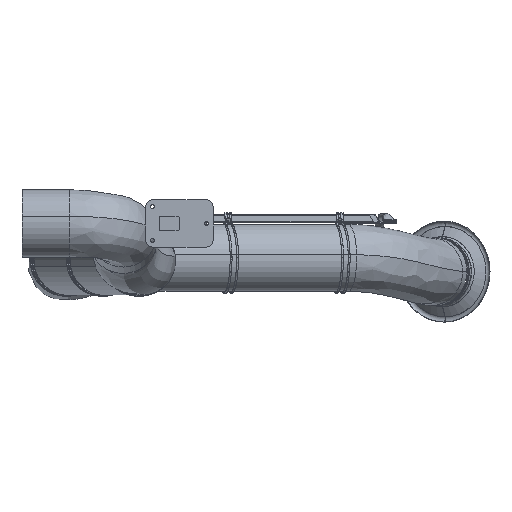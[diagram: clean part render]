
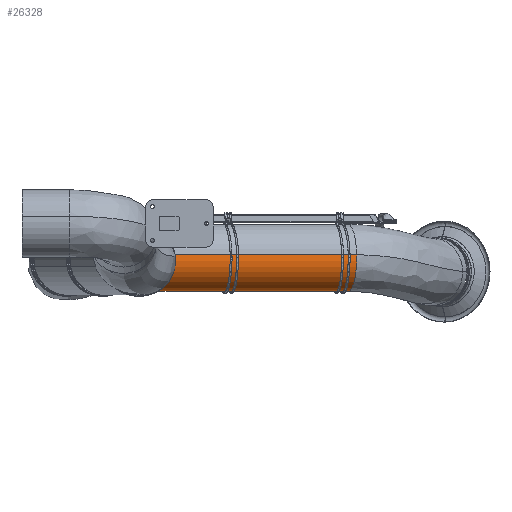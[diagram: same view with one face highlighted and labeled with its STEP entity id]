
A CAD part, left-side view. The second image highlights one B-rep face of the part: STEP entity #26328.
In plain terms, the highlighted free-form (B-spline) face has degree [3, 3] with [7, 6] control points.
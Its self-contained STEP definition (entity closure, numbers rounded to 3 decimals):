
#25051=CARTESIAN_POINT('',(1384.284,-529.773,-102.));
#25052=DIRECTION('',(-0.259,0.966,0.));
#25053=DIRECTION('',(0.962,0.258,-0.088));
#25054=AXIS2_PLACEMENT_3D('',#25051,#25052,#25053);
#25059=CARTESIAN_POINT('',(1480.498,-503.992,
-110.839));
#25060=CARTESIAN_POINT('',(1460.08,-427.791,
-110.839));
#25061=CARTESIAN_POINT('',(1419.244,-275.39,
-110.839));
#25062=CARTESIAN_POINT('',(1357.99,-46.787,
-110.839));
#25063=CARTESIAN_POINT('',(1317.155,105.615,
-110.839));
#25064=CARTESIAN_POINT('',(1296.737,181.815,
-110.839));
#25077=CARTESIAN_POINT('',(1288.069,-555.553,
-93.161));
#25078=CARTESIAN_POINT('',(1267.651,-479.352,
-93.161));
#25079=CARTESIAN_POINT('',(1226.815,-326.951,
-93.161));
#25080=CARTESIAN_POINT('',(1165.561,-98.348,
-93.161));
#25081=CARTESIAN_POINT('',(1124.725,54.053,
-93.161));
#25082=CARTESIAN_POINT('',(1104.308,130.254,
-93.161));
#25327=CARTESIAN_POINT('',(1200.522,156.035,-102.));
#25328=DIRECTION('',(-0.259,0.966,0.));
#25329=DIRECTION('',(0.962,0.258,-0.088));
#25330=AXIS2_PLACEMENT_3D('',#25327,#25328,#25329);
#25821=CARTESIAN_POINT('',(1480.498,-503.992,
-110.839));
#25822=CARTESIAN_POINT('',(1288.069,-555.553,
-93.161));
#25823=VERTEX_POINT('',#25821);
#25824=VERTEX_POINT('',#25822);
#25825=CARTESIAN_POINT('',(1296.737,181.815,
-110.839));
#25826=CARTESIAN_POINT('',(1104.308,130.254,
-93.161));
#25827=VERTEX_POINT('',#25825);
#25828=VERTEX_POINT('',#25826);
#26276=CARTESIAN_POINT('',(1484.52,-517.615,
-104.567));
#26277=CARTESIAN_POINT('',(1483.294,-513.043,
-104.567));
#26278=CARTESIAN_POINT('',(1420.816,-279.869,
-104.567));
#26279=CARTESIAN_POINT('',(1357.112,-42.122,
-104.567));
#26280=CARTESIAN_POINT('',(1294.633,191.052,
-104.567));
#26281=CARTESIAN_POINT('',(1293.408,195.624,
-104.567));
#26282=CARTESIAN_POINT('',(1482.994,-518.024,
-166.087));
#26283=CARTESIAN_POINT('',(1481.769,-513.452,
-166.087));
#26284=CARTESIAN_POINT('',(1419.29,-280.278,
-166.087));
#26285=CARTESIAN_POINT('',(1355.586,-42.531,
-166.087));
#26286=CARTESIAN_POINT('',(1293.107,190.643,
-166.087));
#26287=CARTESIAN_POINT('',(1291.882,195.215,
-166.087));
#26288=CARTESIAN_POINT('',(1438.631,-529.911,
-207.048));
#26289=CARTESIAN_POINT('',(1437.406,-525.339,
-207.048));
#26290=CARTESIAN_POINT('',(1374.927,-292.165,
-207.048));
#26291=CARTESIAN_POINT('',(1311.223,-54.418,
-207.048));
#26292=CARTESIAN_POINT('',(1248.744,178.756,
-207.048));
#26293=CARTESIAN_POINT('',(1247.519,183.329,
-207.048));
#26294=CARTESIAN_POINT('',(1379.421,-545.776,
-201.609));
#26295=CARTESIAN_POINT('',(1378.196,-541.204,
-201.609));
#26296=CARTESIAN_POINT('',(1315.717,-308.03,
-201.609));
#26297=CARTESIAN_POINT('',(1252.013,-70.283,
-201.609));
#26298=CARTESIAN_POINT('',(1189.534,162.891,
-201.609));
#26299=CARTESIAN_POINT('',(1188.309,167.463,
-201.609));
#26300=CARTESIAN_POINT('',(1320.211,-561.642,
-196.169));
#26301=CARTESIAN_POINT('',(1318.986,-557.07,
-196.169));
#26302=CARTESIAN_POINT('',(1256.507,-323.895,
-196.169));
#26303=CARTESIAN_POINT('',(1192.803,-86.149,
-196.169));
#26304=CARTESIAN_POINT('',(1130.324,147.026,
-196.169));
#26305=CARTESIAN_POINT('',(1129.099,151.598,
-196.169));
#26306=CARTESIAN_POINT('',(1283.509,-571.476,
-147.761));
#26307=CARTESIAN_POINT('',(1282.284,-566.904,
-147.761));
#26308=CARTESIAN_POINT('',(1219.805,-333.73,
-147.761));
#26309=CARTESIAN_POINT('',(1156.101,-95.983,
-147.761));
#26310=CARTESIAN_POINT('',(1093.622,137.191,
-147.761));
#26311=CARTESIAN_POINT('',(1092.397,141.764,
-147.761));
#26312=CARTESIAN_POINT('',(1292.47,-569.075,
-86.924));
#26313=CARTESIAN_POINT('',(1291.245,-564.503,
-86.924));
#26314=CARTESIAN_POINT('',(1228.766,-331.328,
-86.924));
#26315=CARTESIAN_POINT('',(1165.062,-93.582,
-86.924));
#26316=CARTESIAN_POINT('',(1102.583,139.593,
-86.924));
#26317=CARTESIAN_POINT('',(1101.358,144.165,
-86.924));
#26318=(BOUNDED_SURFACE()B_SPLINE_SURFACE(3,3,((#26276,#26277,#26278,#26279,
#26280,#26281),(#26282,#26283,#26284,#26285,#26286,#26287),(#26288,#26289,
#26290,#26291,#26292,#26293),(#26294,#26295,#26296,#26297,#26298,#26299),
(#26300,#26301,#26302,#26303,#26304,#26305),(#26306,#26307,#26308,#26309,#26310,
#26311),(#26312,#26313,#26314,#26315,#26316,#26317)),.UNSPECIFIED.,.F.,.F.,.F.)B_SPLINE_SURFACE_WITH_KNOTS((4,3,4),(4,1,1,4),(0.,1.,2.),(-0.02,0.,1.,
1.02),.UNSPECIFIED.)GEOMETRIC_REPRESENTATION_ITEM()RATIONAL_B_SPLINE_SURFACE((
(1.187,1.187,1.187,1.187,
1.187,1.187),(0.938,0.938,
0.938,0.938,0.938,0.938),(
0.938,0.938,0.938,0.938,
0.938,0.938),(1.187,1.187,
1.187,1.187,1.187,1.187),(
0.938,0.938,0.938,0.938,
0.938,0.938),(0.938,0.938,
0.938,0.938,0.938,0.938),(
1.187,1.187,1.187,1.187,
1.187,1.187)))REPRESENTATION_ITEM('')SURFACE());
#26319=ORIENTED_EDGE('',*,*,#26263,.F.);
#26321=ORIENTED_EDGE('',*,*,#26320,.T.);
#26323=ORIENTED_EDGE('',*,*,#26322,.T.);
#26325=ORIENTED_EDGE('',*,*,#26324,.F.);
#26326=EDGE_LOOP('',(#26319,#26321,#26323,#26325));
#26327=FACE_OUTER_BOUND('',#26326,.F.);
#25055=CIRCLE('',#25054,100.);
#25065=B_SPLINE_CURVE_WITH_KNOTS('',3,(#25059,#25060,#25061,#25062,#25063,
#25064),.UNSPECIFIED.,.F.,.F.,(4,1,1,4),(0.,0.333,
0.667,1.),.UNSPECIFIED.);
#25083=B_SPLINE_CURVE_WITH_KNOTS('',3,(#25077,#25078,#25079,#25080,#25081,
#25082),.UNSPECIFIED.,.F.,.F.,(4,1,1,4),(0.,0.333,
0.667,1.),.UNSPECIFIED.);
#25331=CIRCLE('',#25330,100.);
#26263=EDGE_CURVE('',#25823,#25824,#25055,.T.);
#26320=EDGE_CURVE('',#25823,#25827,#25065,.T.);
#26322=EDGE_CURVE('',#25827,#25828,#25331,.T.);
#26324=EDGE_CURVE('',#25824,#25828,#25083,.T.);
#26328=ADVANCED_FACE('',(#26327),#26318,.T.);
